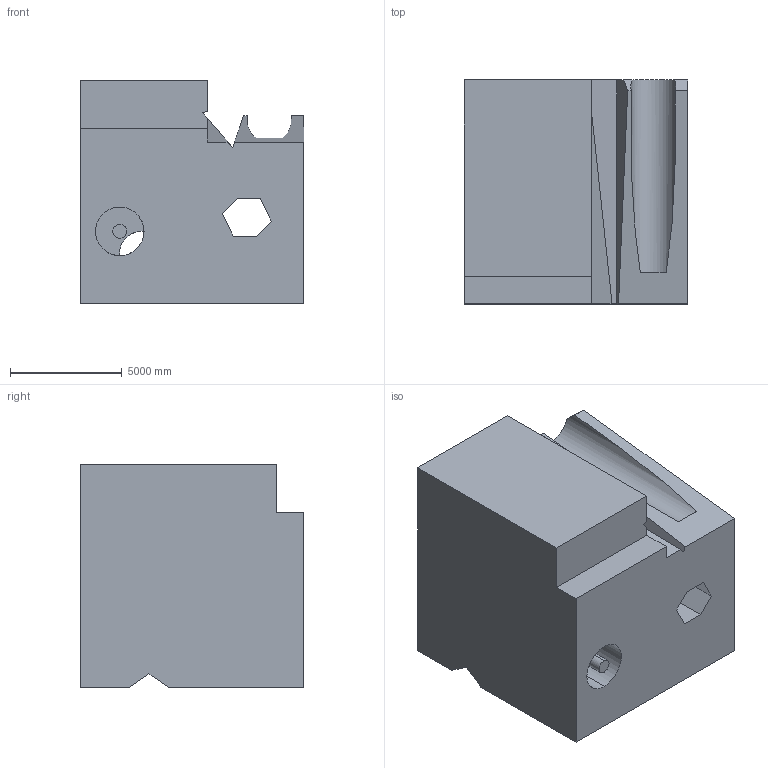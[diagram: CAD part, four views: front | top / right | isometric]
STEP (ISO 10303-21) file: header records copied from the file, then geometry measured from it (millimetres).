
FILE_DESCRIPTION (( 'STEP AP203' ), '1' );
FILE_NAME ('387.STEP', '2022-09-07T13:26:46', ( 'user' ), ( '' ), 'SwSTEP 2.0', 'SolidWorks 2021', '' );
FILE_SCHEMA (( 'CONFIG_CONTROL_DESIGN' ));
Length unit declared in the file: centimetre
Products named in the file (1): 387
Bounding box: 10000 x 10000 x 10000 mm (x, y, z)
Volume: 789910170245.3 mm3; surface area: 751167432.3 mm2
Topology: 1 solids, 1 shells, 44 faces, 123 edges, 82 vertices
Faces by surface type: plane 37, cylinder 7
Entity records: 1490 total; most frequent: CARTESIAN_POINT 262, ORIENTED_EDGE 246, DIRECTION 227, EDGE_CURVE 123, VECTOR 101, LINE 101, VERTEX_POINT 82, AXIS2_PLACEMENT_3D 63
